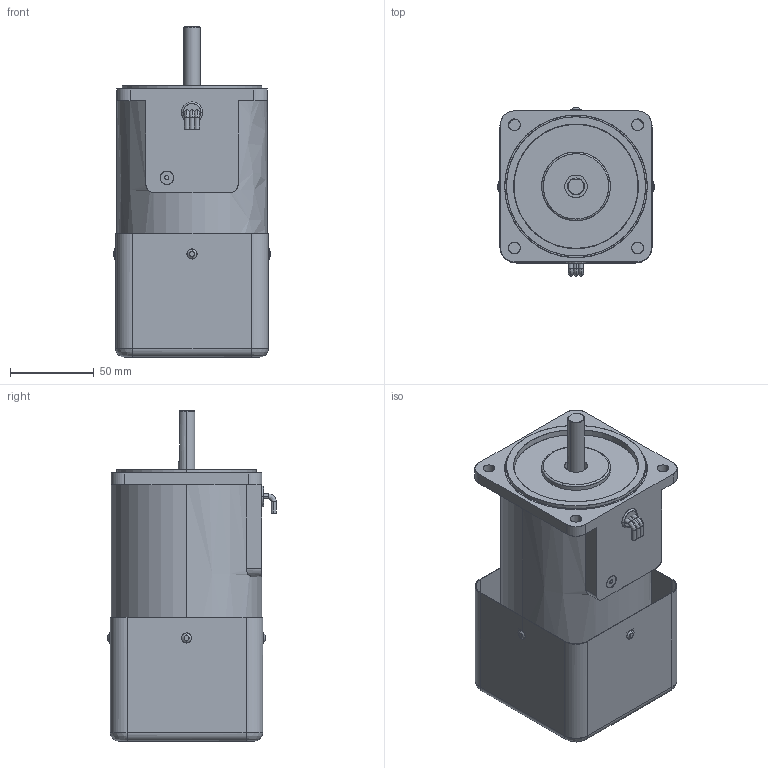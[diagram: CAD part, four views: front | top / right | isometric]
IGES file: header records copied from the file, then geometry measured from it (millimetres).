
Start section: SolidWorks IGES file using analytic representation for surfaces
Global section: file name: \\楷备家烹钦辑滚\data (D)\档搁 枚\权其捞瘤 档搁\6. TORQUE\90\30W\(6-28) 9TDD∴-30F2.IGS; native system: SolidWorks 2007; preprocessor: SolidWorks 2007; author: user; date: 150623.133003; units: millimetre
Bounding box: 94 x 100.5 x 197 mm (x, y, z)
Surface area: 166688.6 mm2 (no closed solid volume)
Topology: 0 solids, 0 shells, 361 faces, 6445 edges, 6445 vertices
Faces by surface type: revolution 229, bspline 132
